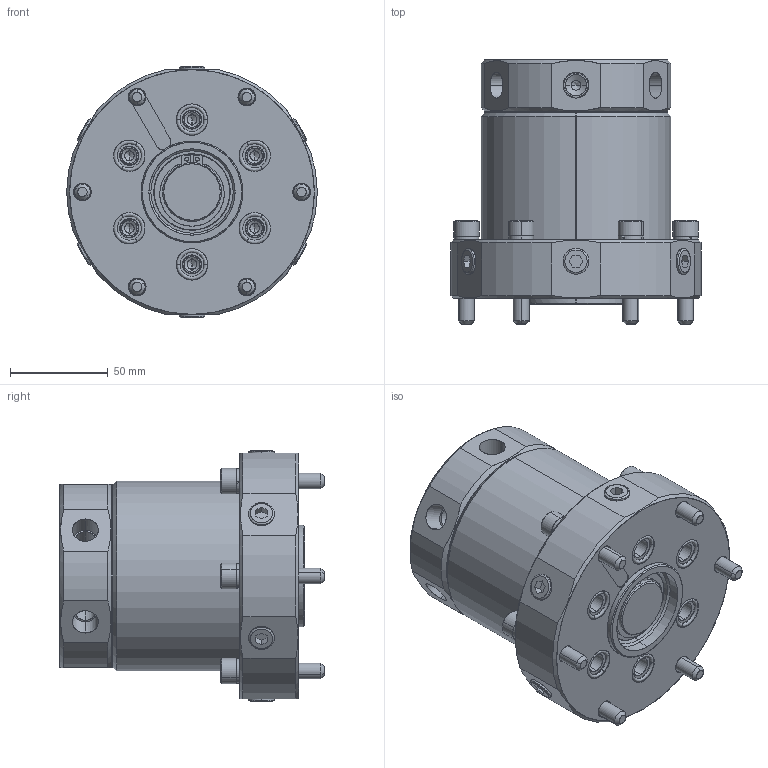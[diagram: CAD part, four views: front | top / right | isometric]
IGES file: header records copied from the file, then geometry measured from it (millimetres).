
Start section: SolidWorks IGES file using analytic representation for surfaces
Global section: file name: L:\電子カタログ-3D_CADデータ集\電子カタログ-3D_IGES\JRB_JRC\JRC0600-S-A.IGS; native system: SolidWorks 2010; preprocessor: SolidWorks 2010; author: D213; date: 110314.114142; units: millimetre
Bounding box: 128 x 135 x 128.6 mm (x, y, z)
Surface area: 140353.1 mm2 (no closed solid volume)
Topology: 0 solids, 0 shells, 747 faces, 9968 edges, 9908 vertices
Faces by surface type: revolution 492, bspline 255
